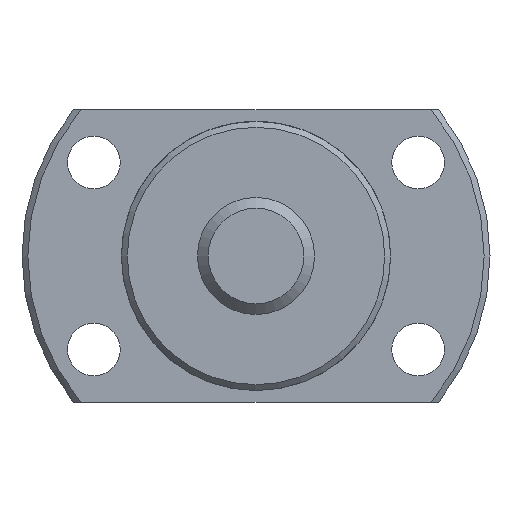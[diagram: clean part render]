
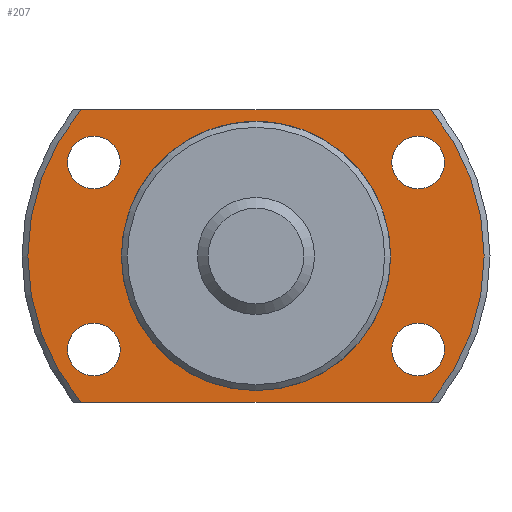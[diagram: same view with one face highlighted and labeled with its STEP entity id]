
A CAD part, left-side view. The second image highlights one B-rep face of the part: STEP entity #207.
In plain terms, the highlighted planar face has unit normal (-1, 0, 0).
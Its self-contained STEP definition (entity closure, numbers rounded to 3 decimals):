
#207 = ADVANCED_FACE( '', ( #315, #316, #317, #318, #319, #320 ), #321, .F. );
#315 = FACE_OUTER_BOUND( '', #448, .T. );
#316 = FACE_BOUND( '', #449, .T. );
#317 = FACE_BOUND( '', #450, .T. );
#318 = FACE_BOUND( '', #451, .T. );
#319 = FACE_BOUND( '', #452, .T. );
#320 = FACE_BOUND( '', #453, .T. );
#321 = PLANE( '', #454 );
#448 = EDGE_LOOP( '', ( #738, #739, #740, #741 ) );
#449 = EDGE_LOOP( '', ( #742 ) );
#450 = EDGE_LOOP( '', ( #743 ) );
#451 = EDGE_LOOP( '', ( #744 ) );
#452 = EDGE_LOOP( '', ( #745 ) );
#453 = EDGE_LOOP( '', ( #746 ) );
#454 = AXIS2_PLACEMENT_3D( '', #747, #748, #749 );
#738 = ORIENTED_EDGE( '', *, *, #889, .F. );
#739 = ORIENTED_EDGE( '', *, *, #913, .F. );
#740 = ORIENTED_EDGE( '', *, *, #905, .F. );
#741 = ORIENTED_EDGE( '', *, *, #887, .F. );
#742 = ORIENTED_EDGE( '', *, *, #914, .T. );
#743 = ORIENTED_EDGE( '', *, *, #915, .T. );
#744 = ORIENTED_EDGE( '', *, *, #916, .T. );
#745 = ORIENTED_EDGE( '', *, *, #917, .T. );
#746 = ORIENTED_EDGE( '', *, *, #903, .T. );
#747 = CARTESIAN_POINT( '', ( 19., 11.25, 0. ) );
#748 = DIRECTION( '', ( 1., 0., 0. ) );
#749 = DIRECTION( '', ( 0., 0., -1. ) );
#887 = EDGE_CURVE( '', #1032, #1034, #1035, .T. );
#889 = EDGE_CURVE( '', #1037, #1032, #1038, .T. );
#903 = EDGE_CURVE( '', #1057, #1057, #1058, .T. );
#905 = EDGE_CURVE( '', #1034, #1060, #1061, .T. );
#913 = EDGE_CURVE( '', #1060, #1037, #1073, .T. );
#914 = EDGE_CURVE( '', #1074, #1074, #1075, .T. );
#915 = EDGE_CURVE( '', #1076, #1076, #1077, .T. );
#916 = EDGE_CURVE( '', #1078, #1078, #1079, .T. );
#917 = EDGE_CURVE( '', #1080, #1080, #1081, .T. );
#1032 = VERTEX_POINT( '', #1355 );
#1034 = VERTEX_POINT( '', #1360 );
#1035 = LINE( '', #1361, #1362 );
#1037 = VERTEX_POINT( '', #1367 );
#1038 = CIRCLE( '', #1368, 19.5 );
#1057 = VERTEX_POINT( '', #1393 );
#1058 = CIRCLE( '', #1394, 11.25 );
#1060 = VERTEX_POINT( '', #1397 );
#1061 = CIRCLE( '', #1398, 19.5 );
#1073 = LINE( '', #1417, #1418 );
#1074 = VERTEX_POINT( '', #1419 );
#1075 = CIRCLE( '', #1420, 2.25 );
#1076 = VERTEX_POINT( '', #1421 );
#1077 = CIRCLE( '', #1422, 2.25 );
#1078 = VERTEX_POINT( '', #1423 );
#1079 = CIRCLE( '', #1424, 2.25 );
#1080 = VERTEX_POINT( '', #1425 );
#1081 = CIRCLE( '', #1426, 2.25 );
#1355 = CARTESIAN_POINT( '', ( 19., 14.967, 12.5 ) );
#1360 = CARTESIAN_POINT( '', ( 19., -14.967, 12.5 ) );
#1361 = CARTESIAN_POINT( '', ( 19., 25., 12.5 ) );
#1362 = VECTOR( '', #1533, 1000. );
#1367 = CARTESIAN_POINT( '', ( 19., 14.967, -12.5 ) );
#1368 = AXIS2_PLACEMENT_3D( '', #1534, #1535, #1536 );
#1393 = CARTESIAN_POINT( '', ( 19., 0., -11.25 ) );
#1394 = AXIS2_PLACEMENT_3D( '', #1567, #1568, #1569 );
#1397 = CARTESIAN_POINT( '', ( 19., -14.967, -12.5 ) );
#1398 = AXIS2_PLACEMENT_3D( '', #1571, #1572, #1573 );
#1417 = CARTESIAN_POINT( '', ( 19., -25., -12.5 ) );
#1418 = VECTOR( '', #1587, 1000. );
#1419 = CARTESIAN_POINT( '', ( 19., -13.856, -10.25 ) );
#1420 = AXIS2_PLACEMENT_3D( '', #1588, #1589, #1590 );
#1421 = CARTESIAN_POINT( '', ( 19., -13.856, 5.75 ) );
#1422 = AXIS2_PLACEMENT_3D( '', #1591, #1592, #1593 );
#1423 = CARTESIAN_POINT( '', ( 19., 13.856, -10.25 ) );
#1424 = AXIS2_PLACEMENT_3D( '', #1594, #1595, #1596 );
#1425 = CARTESIAN_POINT( '', ( 19., 13.856, 5.75 ) );
#1426 = AXIS2_PLACEMENT_3D( '', #1597, #1598, #1599 );
#1533 = DIRECTION( '', ( 0., -1., 0. ) );
#1534 = CARTESIAN_POINT( '', ( 19., 0., 0. ) );
#1535 = DIRECTION( '', ( 1., 0., 0. ) );
#1536 = DIRECTION( '', ( 0., 0., -1. ) );
#1567 = CARTESIAN_POINT( '', ( 19., 0., 0. ) );
#1568 = DIRECTION( '', ( 1., 0., 0. ) );
#1569 = DIRECTION( '', ( 0., 0., -1. ) );
#1571 = CARTESIAN_POINT( '', ( 19., 0., 0. ) );
#1572 = DIRECTION( '', ( 1., 0., 0. ) );
#1573 = DIRECTION( '', ( 0., 0., -1. ) );
#1587 = DIRECTION( '', ( 0., 1., 0. ) );
#1588 = CARTESIAN_POINT( '', ( 19., -13.856, -8. ) );
#1589 = DIRECTION( '', ( 1., 0., 0. ) );
#1590 = DIRECTION( '', ( 0., 0., -1. ) );
#1591 = CARTESIAN_POINT( '', ( 19., -13.856, 8. ) );
#1592 = DIRECTION( '', ( 1., 0., 0. ) );
#1593 = DIRECTION( '', ( 0., 0., -1. ) );
#1594 = CARTESIAN_POINT( '', ( 19., 13.856, -8. ) );
#1595 = DIRECTION( '', ( 1., 0., 0. ) );
#1596 = DIRECTION( '', ( 0., 0., -1. ) );
#1597 = CARTESIAN_POINT( '', ( 19., 13.856, 8. ) );
#1598 = DIRECTION( '', ( 1., 0., 0. ) );
#1599 = DIRECTION( '', ( 0., 0., -1. ) );
